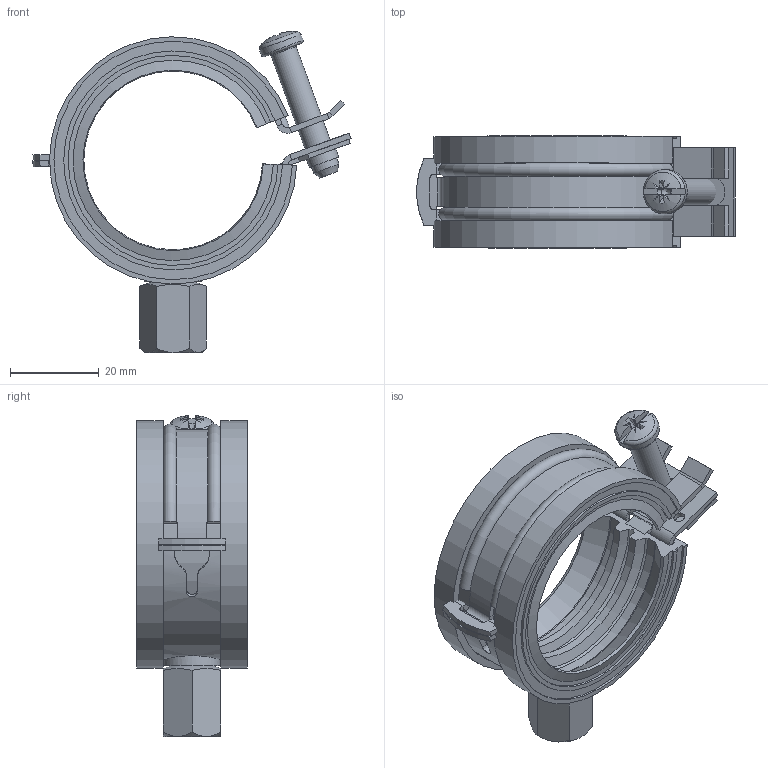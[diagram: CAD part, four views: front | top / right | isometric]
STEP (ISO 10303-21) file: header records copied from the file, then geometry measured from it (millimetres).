
FILE_DESCRIPTION(/* description */ (''),/* implementation_level */ '2;1');
FILE_NAME(/* name */ 'Schelle_Gr. 2_301663.stp',/* time_stamp */ '2024-11-07T08:09:59+01:00',/* author */ ('ASc'),/* organization */ (''),/* preprocessor_version */ 'ST-DEVELOPER v19.2',/* originating_system */ 'Autodesk Inventor 2023',/* authorisation */ '');
FILE_SCHEMA (('AUTOMOTIVE_DESIGN { 1 0 10303 214 3 1 1 }'));
Length unit declared in the file: millimetre
Products named in the file (1): Schelle_Gr. 2_301663
Bounding box: 71.81 x 25.23 x 72.45 mm (x, y, z)
Volume: 21219.8 mm3; surface area: 24887.5 mm2
Topology: 6 solids, 6 shells, 270 faces, 706 edges, 447 vertices
Faces by surface type: plane 152, cylinder 60, cone 30, bspline 19, torus 6, sphere 3
Full cylindrical faces by diameter (mm): 2.5 x2, 5 x1, 6 x1, 6.8 x1, 7 x1, 8.5 x1, 10 x1, 10.5 x1, 13 x1
Entity records: 9376 total; most frequent: CARTESIAN_POINT 2420, ORIENTED_EDGE 1410, DIRECTION 1372, EDGE_CURVE 705, AXIS2_PLACEMENT_3D 485, VERTEX_POINT 447, LINE 402, VECTOR 402
